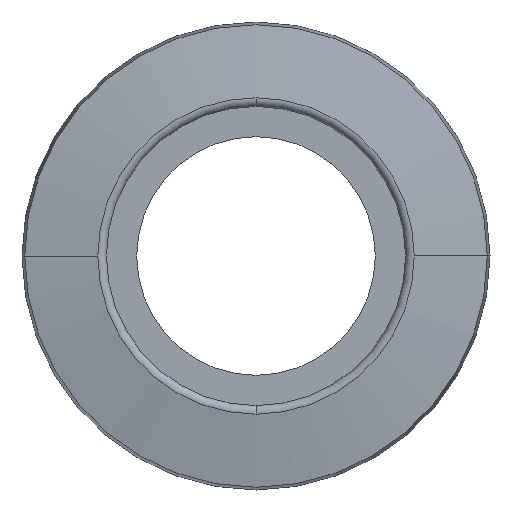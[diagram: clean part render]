
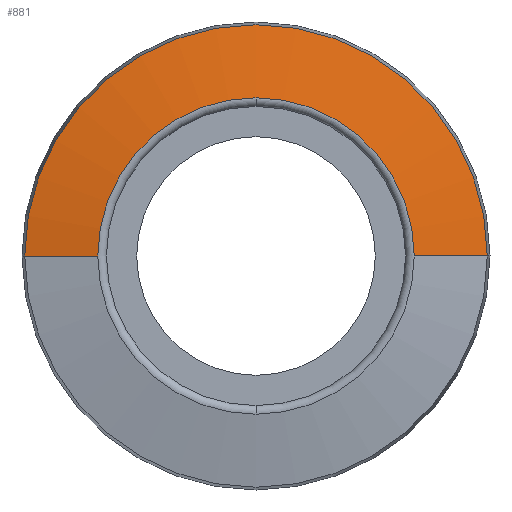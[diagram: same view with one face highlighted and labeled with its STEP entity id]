
A CAD part, front view. The second image highlights one B-rep face of the part: STEP entity #881.
In plain terms, the highlighted conical face has half-angle 80 degrees and reference radius 10.61 mm.
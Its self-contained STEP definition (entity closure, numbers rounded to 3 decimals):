
#7 = CONICAL_SURFACE ( 'NONE', #711, 10.61, 1.396 ) ;
#15 = VERTEX_POINT ( 'NONE', #1587 ) ;
#19 = DIRECTION ( 'NONE',  ( 0., 1., 0. ) ) ;
#72 = VERTEX_POINT ( 'NONE', #1241 ) ;
#100 = VERTEX_POINT ( 'NONE', #724 ) ;
#131 = EDGE_CURVE ( 'NONE', #1295, #872, #588, .T. ) ;
#191 = CARTESIAN_POINT ( 'NONE',  ( 10.61, -25.443, 0. ) ) ;
#218 = VECTOR ( 'NONE', #220, 1000. ) ;
#220 = DIRECTION ( 'NONE',  ( -0.985, 0.174, 0. ) ) ;
#252 = ORIENTED_EDGE ( 'NONE', *, *, #605, .T. ) ;
#272 = CARTESIAN_POINT ( 'NONE',  ( 0., -25.794, 8.619 ) ) ;
#337 = ORIENTED_EDGE ( 'NONE', *, *, #1130, .T. ) ;
#355 = CARTESIAN_POINT ( 'NONE',  ( -10.61, -25.443, 0. ) ) ;
#358 = CIRCLE ( 'NONE', #498, 12.6 ) ;
#498 = AXIS2_PLACEMENT_3D ( 'NONE', #1326, #903, #768 ) ;
#501 = AXIS2_PLACEMENT_3D ( 'NONE', #565, #1110, #1685 ) ;
#565 = CARTESIAN_POINT ( 'NONE',  ( 0., -25.794, 0. ) ) ;
#588 = CIRCLE ( 'NONE', #501, 8.619 ) ;
#605 = EDGE_CURVE ( 'NONE', #15, #72, #1309, .T. ) ;
#652 = CIRCLE ( 'NONE', #1660, 8.619 ) ;
#675 = CARTESIAN_POINT ( 'NONE',  ( 0., -25.794, 0. ) ) ;
#711 = AXIS2_PLACEMENT_3D ( 'NONE', #1102, #19, #1539 ) ;
#724 = CARTESIAN_POINT ( 'NONE',  ( -12.6, -25.092, 0. ) ) ;
#768 = DIRECTION ( 'NONE',  ( -1., 0., 0. ) ) ;
#816 = DIRECTION ( 'NONE',  ( -1., 0., 0. ) ) ;
#872 = VERTEX_POINT ( 'NONE', #272 ) ;
#881 = ADVANCED_FACE ( 'NONE', ( #1288 ), #7, .T. ) ;
#903 = DIRECTION ( 'NONE',  ( 0., 1., 0. ) ) ;
#985 = ORIENTED_EDGE ( 'NONE', *, *, #1513, .F. ) ;
#1036 = LINE ( 'NONE', #355, #218 ) ;
#1038 = EDGE_LOOP ( 'NONE', ( #337, #252, #1057, #985, #1149 ) ) ;
#1057 = ORIENTED_EDGE ( 'NONE', *, *, #1599, .F. ) ;
#1102 = CARTESIAN_POINT ( 'NONE',  ( 0., -25.443, 0. ) ) ;
#1110 = DIRECTION ( 'NONE',  ( 0., 1., 0. ) ) ;
#1130 = EDGE_CURVE ( 'NONE', #872, #15, #652, .T. ) ;
#1149 = ORIENTED_EDGE ( 'NONE', *, *, #131, .T. ) ;
#1228 = DIRECTION ( 'NONE',  ( 0., 1., 0. ) ) ;
#1241 = CARTESIAN_POINT ( 'NONE',  ( 12.6, -25.092, 0. ) ) ;
#1288 = FACE_OUTER_BOUND ( 'NONE', #1038, .T. ) ;
#1295 = VERTEX_POINT ( 'NONE', #1581 ) ;
#1309 = LINE ( 'NONE', #191, #1723 ) ;
#1326 = CARTESIAN_POINT ( 'NONE',  ( 0., -25.092, 0. ) ) ;
#1450 = DIRECTION ( 'NONE',  ( 0.985, 0.174, 0. ) ) ;
#1513 = EDGE_CURVE ( 'NONE', #1295, #100, #1036, .T. ) ;
#1539 = DIRECTION ( 'NONE',  ( -1., 0., 0. ) ) ;
#1581 = CARTESIAN_POINT ( 'NONE',  ( -8.619, -25.794, 0. ) ) ;
#1587 = CARTESIAN_POINT ( 'NONE',  ( 8.619, -25.794, 0. ) ) ;
#1599 = EDGE_CURVE ( 'NONE', #100, #72, #358, .T. ) ;
#1660 = AXIS2_PLACEMENT_3D ( 'NONE', #675, #1228, #816 ) ;
#1685 = DIRECTION ( 'NONE',  ( -1., 0., 0. ) ) ;
#1723 = VECTOR ( 'NONE', #1450, 1000. ) ;
